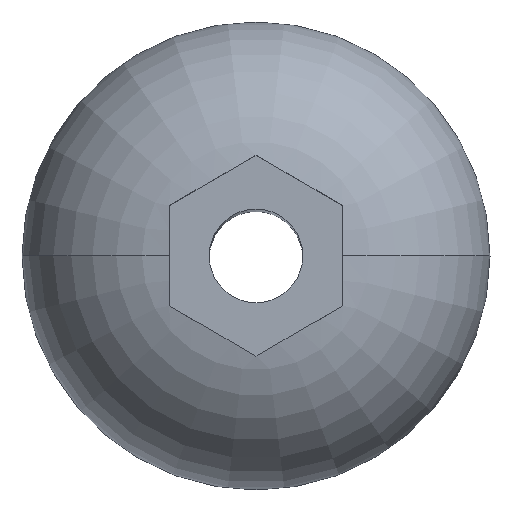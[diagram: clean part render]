
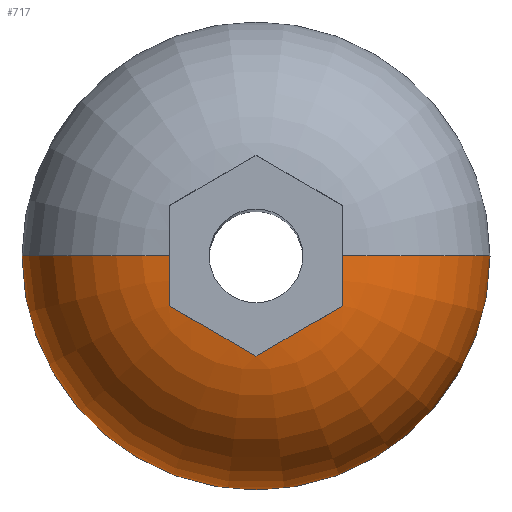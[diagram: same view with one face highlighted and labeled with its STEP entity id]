
A CAD part, top view. The second image highlights one B-rep face of the part: STEP entity #717.
In plain terms, the highlighted toroidal (fillet/blend) face has major radius 0.501 mm and minor radius 1.25 mm.
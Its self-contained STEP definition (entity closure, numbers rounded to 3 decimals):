
#53 = CARTESIAN_POINT ( 'NONE',  ( 0.65, -0.126, 1.29 ) ) ;
#114 = AXIS2_PLACEMENT_3D ( 'NONE', #1506, #2871, #372 ) ;
#115 = CARTESIAN_POINT ( 'NONE',  ( 0., 0., 0.05 ) ) ;
#150 = CARTESIAN_POINT ( 'NONE',  ( 0.65, -0.375, 1.275 ) ) ;
#165 = CARTESIAN_POINT ( 'NONE',  ( 0., -0.751, 1.275 ) ) ;
#178 = CARTESIAN_POINT ( 'NONE',  ( -0.65, -0.375, 1.275 ) ) ;
#214 = B_SPLINE_CURVE_WITH_KNOTS ( 'NONE', 3,
 ( #2826, #2787, #53, #1899, #751, #2353 ),
 .UNSPECIFIED., .F., .F.,
 ( 4, 2, 4 ),
 ( 0., 0., 0. ),
 .UNSPECIFIED. ) ;
#372 = DIRECTION ( 'NONE',  ( 1., 0., 0. ) ) ;
#373 = VERTEX_POINT ( 'NONE', #2164 ) ;
#442 = B_SPLINE_CURVE_WITH_KNOTS ( 'NONE', 3,
 ( #1054, #2400, #2846, #2656, #1247 ),
 .UNSPECIFIED., .F., .F.,
 ( 4, 1, 4 ),
 ( 0., 0., 0.001 ),
 .UNSPECIFIED. ) ;
#477 = ORIENTED_EDGE ( 'NONE', *, *, #1178, .F. ) ;
#555 = VERTEX_POINT ( 'NONE', #1748 ) ;
#569 = TOROIDAL_SURFACE ( 'NONE', #1180, 0.501, 1.25 ) ;
#653 = CARTESIAN_POINT ( 'NONE',  ( 0.108, -0.688, 1.288 ) ) ;
#678 = EDGE_CURVE ( 'NONE', #2658, #2660, #2051, .T. ) ;
#717 = ADVANCED_FACE ( 'NONE', ( #1272 ), #569, .T. ) ;
#751 = CARTESIAN_POINT ( 'NONE',  ( 0.65, -0.313, 1.281 ) ) ;
#768 = CARTESIAN_POINT ( 'NONE',  ( 0., -0.751, 1.275 ) ) ;
#779 = AXIS2_PLACEMENT_3D ( 'NONE', #2020, #1552, #2230 ) ;
#833 = CARTESIAN_POINT ( 'NONE',  ( -0.65, -0.313, 1.281 ) ) ;
#854 = CARTESIAN_POINT ( 'NONE',  ( -0.65, -0.375, 1.275 ) ) ;
#867 = CARTESIAN_POINT ( 'NONE',  ( 0.542, -0.438, 1.288 ) ) ;
#926 = CARTESIAN_POINT ( 'NONE',  ( 0.501, 0., 0.05 ) ) ;
#1024 = ORIENTED_EDGE ( 'NONE', *, *, #1781, .T. ) ;
#1054 = CARTESIAN_POINT ( 'NONE',  ( 0., -0.751, 1.275 ) ) ;
#1171 = ORIENTED_EDGE ( 'NONE', *, *, #678, .T. ) ;
#1178 = EDGE_CURVE ( 'NONE', #373, #2660, #1525, .T. ) ;
#1180 = AXIS2_PLACEMENT_3D ( 'NONE', #115, #2583, #1474 ) ;
#1216 = ORIENTED_EDGE ( 'NONE', *, *, #1219, .T. ) ;
#1219 = EDGE_CURVE ( 'NONE', #2544, #2085, #2720, .T. ) ;
#1247 = CARTESIAN_POINT ( 'NONE',  ( -0.65, -0.375, 1.275 ) ) ;
#1272 = FACE_OUTER_BOUND ( 'NONE', #2152, .T. ) ;
#1307 = CARTESIAN_POINT ( 'NONE',  ( -0.65, -0.063, 1.291 ) ) ;
#1474 = DIRECTION ( 'NONE',  ( 1., 0., 0. ) ) ;
#1506 = CARTESIAN_POINT ( 'NONE',  ( 0., 0., 0. ) ) ;
#1525 = CIRCLE ( 'NONE', #779, 1.25 ) ;
#1552 = DIRECTION ( 'NONE',  ( 0., 1., 0. ) ) ;
#1560 = CARTESIAN_POINT ( 'NONE',  ( 0.65, -0.375, 1.275 ) ) ;
#1620 = DIRECTION ( 'NONE',  ( 0., -1., 0. ) ) ;
#1628 = DIRECTION ( 'NONE',  ( 0., 0., -1. ) ) ;
#1748 = CARTESIAN_POINT ( 'NONE',  ( 1.75, 0., 0. ) ) ;
#1781 = EDGE_CURVE ( 'NONE', #373, #555, #2200, .T. ) ;
#1818 = EDGE_CURVE ( 'NONE', #2085, #2658, #442, .T. ) ;
#1833 = ORIENTED_EDGE ( 'NONE', *, *, #2456, .T. ) ;
#1899 = CARTESIAN_POINT ( 'NONE',  ( 0.65, -0.251, 1.285 ) ) ;
#2020 = CARTESIAN_POINT ( 'NONE',  ( -0.501, 0., 0.05 ) ) ;
#2051 = B_SPLINE_CURVE_WITH_KNOTS ( 'NONE', 3,
 ( #854, #833, #2663, #2683, #1307, #2902 ),
 .UNSPECIFIED., .F., .F.,
 ( 4, 2, 4 ),
 ( 0.009, 0.009, 0.009 ),
 .UNSPECIFIED. ) ;
#2085 = VERTEX_POINT ( 'NONE', #768 ) ;
#2152 = EDGE_LOOP ( 'NONE', ( #477, #1024, #2328, #1833, #1216, #2895, #1171 ) ) ;
#2164 = CARTESIAN_POINT ( 'NONE',  ( -1.75, 0., 0. ) ) ;
#2200 = CIRCLE ( 'NONE', #114, 1.75 ) ;
#2218 = CARTESIAN_POINT ( 'NONE',  ( 0.325, -0.563, 1.295 ) ) ;
#2223 = EDGE_CURVE ( 'NONE', #555, #2899, #2381, .T. ) ;
#2230 = DIRECTION ( 'NONE',  ( -1., 0., 0. ) ) ;
#2328 = ORIENTED_EDGE ( 'NONE', *, *, #2223, .T. ) ;
#2353 = CARTESIAN_POINT ( 'NONE',  ( 0.65, -0.375, 1.275 ) ) ;
#2381 = CIRCLE ( 'NONE', #2444, 1.25 ) ;
#2400 = CARTESIAN_POINT ( 'NONE',  ( -0.108, -0.688, 1.288 ) ) ;
#2444 = AXIS2_PLACEMENT_3D ( 'NONE', #926, #1620, #1628 ) ;
#2456 = EDGE_CURVE ( 'NONE', #2899, #2544, #214, .T. ) ;
#2544 = VERTEX_POINT ( 'NONE', #150 ) ;
#2583 = DIRECTION ( 'NONE',  ( 0., 0., 1. ) ) ;
#2656 = CARTESIAN_POINT ( 'NONE',  ( -0.542, -0.438, 1.288 ) ) ;
#2658 = VERTEX_POINT ( 'NONE', #178 ) ;
#2660 = VERTEX_POINT ( 'NONE', #2679 ) ;
#2663 = CARTESIAN_POINT ( 'NONE',  ( -0.65, -0.251, 1.285 ) ) ;
#2679 = CARTESIAN_POINT ( 'NONE',  ( -0.65, 0., 1.291 ) ) ;
#2683 = CARTESIAN_POINT ( 'NONE',  ( -0.65, -0.125, 1.29 ) ) ;
#2720 = B_SPLINE_CURVE_WITH_KNOTS ( 'NONE', 3,
 ( #1560, #867, #2218, #653, #165 ),
 .UNSPECIFIED., .F., .F.,
 ( 4, 1, 4 ),
 ( 0., 0., 0.001 ),
 .UNSPECIFIED. ) ;
#2787 = CARTESIAN_POINT ( 'NONE',  ( 0.65, -0.063, 1.291 ) ) ;
#2826 = CARTESIAN_POINT ( 'NONE',  ( 0.65, 0., 1.291 ) ) ;
#2846 = CARTESIAN_POINT ( 'NONE',  ( -0.325, -0.563, 1.295 ) ) ;
#2850 = CARTESIAN_POINT ( 'NONE',  ( 0.65, 0., 1.291 ) ) ;
#2871 = DIRECTION ( 'NONE',  ( 0., 0., 1. ) ) ;
#2895 = ORIENTED_EDGE ( 'NONE', *, *, #1818, .T. ) ;
#2899 = VERTEX_POINT ( 'NONE', #2850 ) ;
#2902 = CARTESIAN_POINT ( 'NONE',  ( -0.65, 0., 1.291 ) ) ;
